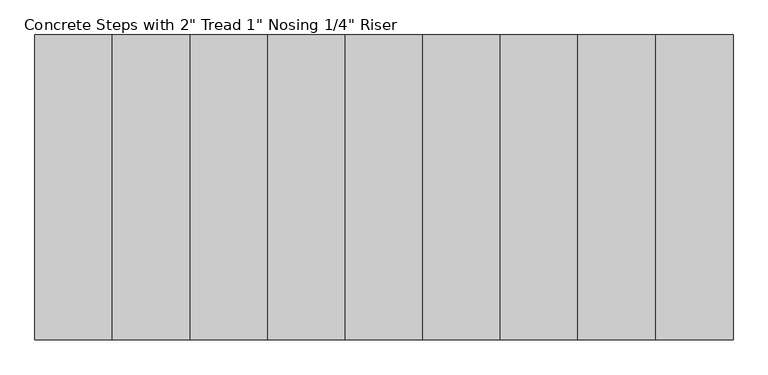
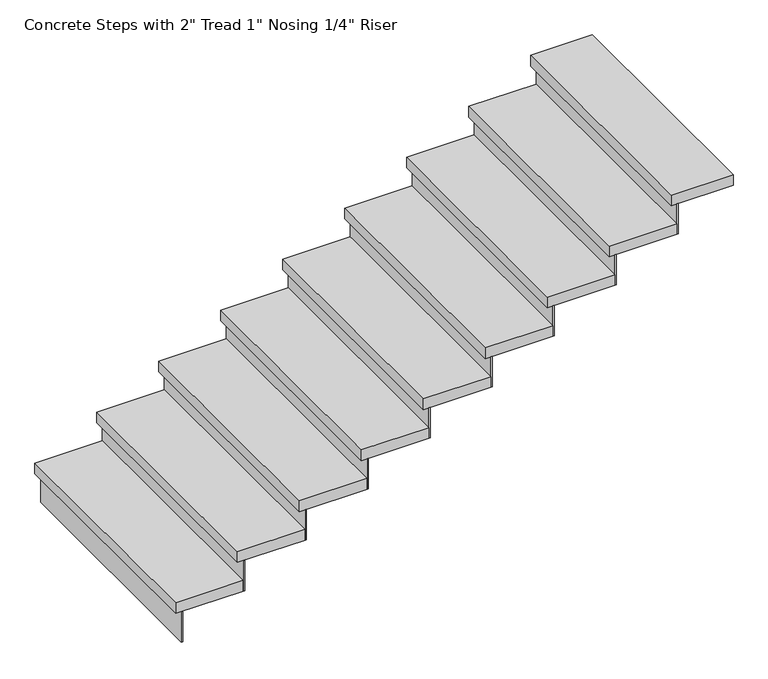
"""IFC4 building model written with IfcOpenShell, lengths in millimetres: stair flight geometry."""

from ifc_helpers import new_model, si_unit, frame, origin, place, context, project, spatial, polyline, outline, extrude, source, transform, mapped, element, save


def stair_flight_bc71ca27(model_context):
    return source(origin(), model_context, "Body", "SweptSolid", [
        extrude(outline(polyline([(-9956.5313244, -18551.5554387), (-9962.8813244, -18551.5554387), (-9962.8813244, -17453.1578387), (-9956.5313244, -17453.1578387), (-9956.5313244, -18551.5554387)])), frame((0.0, 0.0, 1690.9142857), z_axis=(0.0, 0.0, 1.0), x_axis=(1.0, 0.0, 0.0)), (0.0, 0.0, 1.0), 145.1428571),
        extrude(outline(polyline([(-9683.4813244, -17453.1578387), (-9683.4813244, -18551.5554387), (-9988.2813244, -18551.5554387), (-9988.2813244, -17453.1578387), (-9683.4813244, -17453.1578387)])), frame((0.0, 0.0, 1836.0571429), z_axis=(0.0, 0.0, 1.0), x_axis=(1.0, 0.0, 0.0)), (0.0, 0.0, 1.0), 50.8),
        extrude(outline(polyline([(-9677.1313244, -18551.5554387), (-9683.4813244, -18551.5554387), (-9683.4813244, -17453.1578387), (-9677.1313244, -17453.1578387), (-9677.1313244, -18551.5554387)])), frame((0.0, 0.0, 1836.0571429), z_axis=(0.0, 0.0, 1.0), x_axis=(1.0, 0.0, 0.0)), (0.0, 0.0, 1.0), 145.1428571),
        extrude(outline(polyline([(-9404.0813244, -17453.1578387), (-9404.0813244, -18551.5554387), (-9708.8813244, -18551.5554387), (-9708.8813244, -17453.1578387), (-9404.0813244, -17453.1578387)])), frame((0.0, 0.0, 1981.2), z_axis=(0.0, 0.0, 1.0), x_axis=(1.0, 0.0, 0.0)), (0.0, 0.0, 1.0), 50.8),
        extrude(outline(polyline([(-9397.7313244, -18551.5554387), (-9404.0813244, -18551.5554387), (-9404.0813244, -17453.1578387), (-9397.7313244, -17453.1578387), (-9397.7313244, -18551.5554387)])), frame((0.0, 0.0, 1981.2), z_axis=(0.0, 0.0, 1.0), x_axis=(1.0, 0.0, 0.0)), (0.0, 0.0, 1.0), 145.1428571),
        extrude(outline(polyline([(-9124.6813244, -17453.1578387), (-9124.6813244, -18551.5554387), (-9429.4813244, -18551.5554387), (-9429.4813244, -17453.1578387), (-9124.6813244, -17453.1578387)])), frame((0.0, 0.0, 2126.3428571), z_axis=(0.0, 0.0, 1.0), x_axis=(1.0, 0.0, 0.0)), (0.0, 0.0, 1.0), 50.8),
        extrude(outline(polyline([(-9118.3313244, -18551.5554387), (-9124.6813244, -18551.5554387), (-9124.6813244, -17453.1578387), (-9118.3313244, -17453.1578387), (-9118.3313244, -18551.5554387)])), frame((0.0, 0.0, 2126.3428571), z_axis=(0.0, 0.0, 1.0), x_axis=(1.0, 0.0, 0.0)), (0.0, 0.0, 1.0), 145.1428571),
        extrude(outline(polyline([(-8845.2813244, -17453.1578387), (-8845.2813244, -18551.5554387), (-9150.0813244, -18551.5554387), (-9150.0813244, -17453.1578387), (-8845.2813244, -17453.1578387)])), frame((0.0, 0.0, 2271.4857143), z_axis=(0.0, 0.0, 1.0), x_axis=(1.0, 0.0, 0.0)), (0.0, 0.0, 1.0), 50.8),
        extrude(outline(polyline([(-8838.9313244, -18551.5554387), (-8845.2813244, -18551.5554387), (-8845.2813244, -17453.1578387), (-8838.9313244, -17453.1578387), (-8838.9313244, -18551.5554387)])), frame((0.0, 0.0, 2271.4857143), z_axis=(0.0, 0.0, 1.0), x_axis=(1.0, 0.0, 0.0)), (0.0, 0.0, 1.0), 145.1428571),
        extrude(outline(polyline([(-8565.8813244, -17453.1578387), (-8565.8813244, -18551.5554387), (-8870.6813244, -18551.5554387), (-8870.6813244, -17453.1578387), (-8565.8813244, -17453.1578387)])), frame((0.0, 0.0, 2416.6285714), z_axis=(0.0, 0.0, 1.0), x_axis=(1.0, 0.0, 0.0)), (0.0, 0.0, 1.0), 50.8),
        extrude(outline(polyline([(-8559.5313244, -18551.5554387), (-8565.8813244, -18551.5554387), (-8565.8813244, -17453.1578387), (-8559.5313244, -17453.1578387), (-8559.5313244, -18551.5554387)])), frame((0.0, 0.0, 2416.6285714), z_axis=(0.0, 0.0, 1.0), x_axis=(1.0, 0.0, 0.0)), (0.0, 0.0, 1.0), 145.1428571),
        extrude(outline(polyline([(-8286.4813244, -17453.1578387), (-8286.4813244, -18551.5554387), (-8591.2813244, -18551.5554387), (-8591.2813244, -17453.1578387), (-8286.4813244, -17453.1578387)])), frame((0.0, 0.0, 2561.7714286), z_axis=(0.0, 0.0, 1.0), x_axis=(1.0, 0.0, 0.0)), (0.0, 0.0, 1.0), 50.8),
        extrude(outline(polyline([(-8280.1313244, -18551.5554387), (-8286.4813244, -18551.5554387), (-8286.4813244, -17453.1578387), (-8280.1313244, -17453.1578387), (-8280.1313244, -18551.5554387)])), frame((0.0, 0.0, 2561.7714286), z_axis=(0.0, 0.0, 1.0), x_axis=(1.0, 0.0, 0.0)), (0.0, 0.0, 1.0), 145.1428571),
        extrude(outline(polyline([(-8007.0813244, -17453.1578387), (-8007.0813244, -18551.5554387), (-8311.8813244, -18551.5554387), (-8311.8813244, -17453.1578387), (-8007.0813244, -17453.1578387)])), frame((0.0, 0.0, 2706.9142857), z_axis=(0.0, 0.0, 1.0), x_axis=(1.0, 0.0, 0.0)), (0.0, 0.0, 1.0), 50.8),
        extrude(outline(polyline([(-8000.7313244, -18551.5554387), (-8007.0813244, -18551.5554387), (-8007.0813244, -17453.1578387), (-8000.7313244, -17453.1578387), (-8000.7313244, -18551.5554387)])), frame((0.0, 0.0, 2706.9142857), z_axis=(0.0, 0.0, 1.0), x_axis=(1.0, 0.0, 0.0)), (0.0, 0.0, 1.0), 145.1428571),
        extrude(outline(polyline([(-7727.6813244, -17453.1578387), (-7727.6813244, -18551.5554387), (-8032.4813244, -18551.5554387), (-8032.4813244, -17453.1578387), (-7727.6813244, -17453.1578387)])), frame((0.0, 0.0, 2852.0571429), z_axis=(0.0, 0.0, 1.0), x_axis=(1.0, 0.0, 0.0)), (0.0, 0.0, 1.0), 50.8),
        extrude(outline(polyline([(-7721.3313244, -18551.5554387), (-7727.6813244, -18551.5554387), (-7727.6813244, -17453.1578387), (-7721.3313244, -17453.1578387), (-7721.3313244, -18551.5554387)])), frame((0.0, 0.0, 2852.0571429), z_axis=(0.0, 0.0, 1.0), x_axis=(1.0, 0.0, 0.0)), (0.0, 0.0, 1.0), 145.1428571),
        extrude(outline(polyline([(-7473.6813244, -17453.1578387), (-7473.6813244, -18551.5554387), (-7753.0813244, -18551.5554387), (-7753.0813244, -17453.1578387), (-7473.6813244, -17453.1578387)])), frame((0.0, 0.0, 2997.2), z_axis=(0.0, 0.0, 1.0), x_axis=(1.0, 0.0, 0.0)), (0.0, 0.0, 1.0), 50.8),
    ])


if __name__ == "__main__":
    model = new_model("IFC4")
    model_context = context("Model", 3, world=origin())
    ifc_project = project(units=[si_unit("LENGTHUNIT", "METRE", prefix="MILLI")], contexts=[model_context])
    site = spatial("IfcSite", under=ifc_project)
    building = spatial("IfcBuilding", under=site)
    placement = place(None, origin())
    stair_flight_shape = stair_flight_bc71ca27(model_context)
    element("IfcStairFlight", 1, ObjectType="Concrete Steps with 2\" Tread 1\" Nosing 1/4\" Riser", at=placement, inside=building, context=model_context, shape_type="MappedRepresentation", body=[
        mapped(stair_flight_shape, transform((0.0, 0.0, 0.0), x_axis=(1.0, 0.0, 0.0), y_axis=(0.0, 1.0, 0.0), z_axis=(0.0, 0.0, 1.0))),
    ])
    save(model, "model.ifc")
